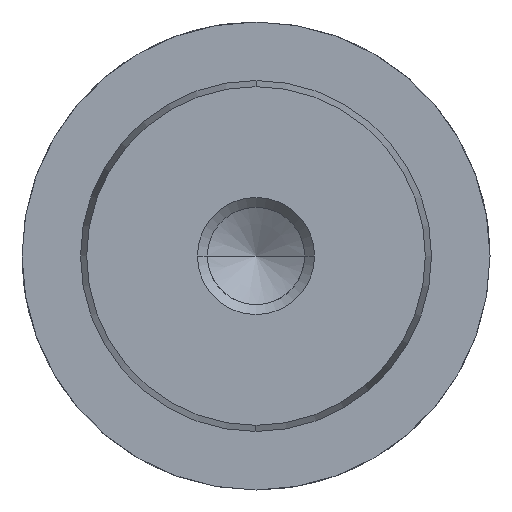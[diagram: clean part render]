
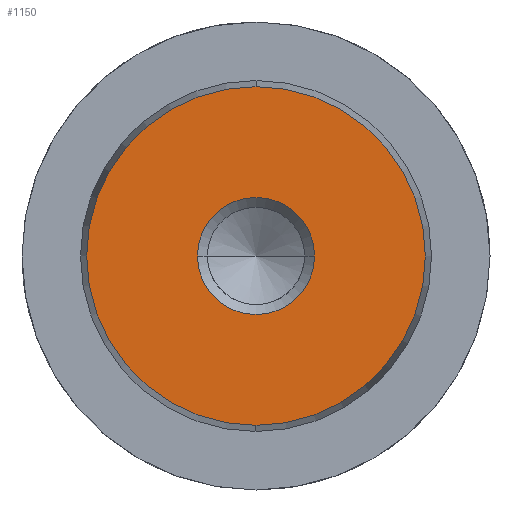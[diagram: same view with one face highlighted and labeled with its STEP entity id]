
A CAD part, left-side view. The second image highlights one B-rep face of the part: STEP entity #1150.
In plain terms, the highlighted planar face has unit normal (-1, 0, 0).
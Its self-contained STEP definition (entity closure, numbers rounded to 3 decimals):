
#1064=CARTESIAN_POINT('Vertex',(0.,0.,-11.578)) ;
#1067=CARTESIAN_POINT('Axis2P3D Location',(0.,0.,0.)) ;
#1071=CARTESIAN_POINT('Vertex',(0.,11.578,0.)) ;
#1074=CARTESIAN_POINT('Axis2P3D Location',(0.,0.,0.)) ;
#1078=CARTESIAN_POINT('Vertex',(0.,0.,11.578)) ;
#1100=CARTESIAN_POINT('Axis2P3D Location',(0.,0.,0.)) ;
#1104=CARTESIAN_POINT('Vertex',(0.,-11.578,0.)) ;
#1107=CARTESIAN_POINT('Axis2P3D Location',(0.,0.,0.)) ;
#1121=CARTESIAN_POINT('Axis2P3D Location',(0.,0.,0.)) ;
#1132=CARTESIAN_POINT('Axis2P3D Location',(0.,0.,0.)) ;
#1136=CARTESIAN_POINT('Vertex',(0.,4.,0.)) ;
#1138=CARTESIAN_POINT('Vertex',(0.,-4.,0.)) ;
#1141=CARTESIAN_POINT('Axis2P3D Location',(0.,0.,0.)) ;
#1068=DIRECTION('Axis2P3D Direction',(1.,0.,-0.)) ;
#1075=DIRECTION('Axis2P3D Direction',(1.,0.,-0.)) ;
#1101=DIRECTION('Axis2P3D Direction',(1.,0.,-0.)) ;
#1108=DIRECTION('Axis2P3D Direction',(1.,0.,-0.)) ;
#1122=DIRECTION('Axis2P3D Direction',(1.,0.,-0.)) ;
#1123=DIRECTION('Axis2P3D XDirection',(-0.,0.,-1.)) ;
#1133=DIRECTION('Axis2P3D Direction',(1.,0.,-0.)) ;
#1142=DIRECTION('Axis2P3D Direction',(1.,0.,-0.)) ;
#1069=AXIS2_PLACEMENT_3D('Circle Axis2P3D',#1067,#1068,$) ;
#1076=AXIS2_PLACEMENT_3D('Circle Axis2P3D',#1074,#1075,$) ;
#1102=AXIS2_PLACEMENT_3D('Circle Axis2P3D',#1100,#1101,$) ;
#1109=AXIS2_PLACEMENT_3D('Circle Axis2P3D',#1107,#1108,$) ;
#1124=AXIS2_PLACEMENT_3D('Plane Axis2P3D',#1121,#1122,#1123) ;
#1134=AXIS2_PLACEMENT_3D('Circle Axis2P3D',#1132,#1133,$) ;
#1143=AXIS2_PLACEMENT_3D('Circle Axis2P3D',#1141,#1142,$) ;
#1127=ORIENTED_EDGE('',*,*,#1073,.F.) ;
#1128=ORIENTED_EDGE('',*,*,#1111,.F.) ;
#1129=ORIENTED_EDGE('',*,*,#1106,.F.) ;
#1130=ORIENTED_EDGE('',*,*,#1080,.F.) ;
#1147=ORIENTED_EDGE('',*,*,#1140,.T.) ;
#1148=ORIENTED_EDGE('',*,*,#1145,.T.) ;
#1149=FACE_BOUND('',#1146,.T.) ;
#1150=ADVANCED_FACE('718-24x224',(#1131,#1149),#1125,.F.) ;
#1070=CIRCLE('generated circle',#1069,11.578) ;
#1077=CIRCLE('generated circle',#1076,11.578) ;
#1103=CIRCLE('generated circle',#1102,11.578) ;
#1110=CIRCLE('generated circle',#1109,11.578) ;
#1135=CIRCLE('generated circle',#1134,4.) ;
#1144=CIRCLE('generated circle',#1143,4.) ;
#1073=EDGE_CURVE('',#1065,#1072,#1070,.T.) ;
#1080=EDGE_CURVE('',#1072,#1079,#1077,.T.) ;
#1106=EDGE_CURVE('',#1079,#1105,#1103,.T.) ;
#1111=EDGE_CURVE('',#1105,#1065,#1110,.T.) ;
#1140=EDGE_CURVE('',#1137,#1139,#1135,.T.) ;
#1145=EDGE_CURVE('',#1139,#1137,#1144,.T.) ;
#1126=EDGE_LOOP('',(#1127,#1128,#1129,#1130)) ;
#1146=EDGE_LOOP('',(#1147,#1148)) ;
#1131=FACE_OUTER_BOUND('',#1126,.T.) ;
#1125=PLANE('Plane',#1124) ;
#1065=VERTEX_POINT('',#1064) ;
#1072=VERTEX_POINT('',#1071) ;
#1079=VERTEX_POINT('',#1078) ;
#1105=VERTEX_POINT('',#1104) ;
#1137=VERTEX_POINT('',#1136) ;
#1139=VERTEX_POINT('',#1138) ;
